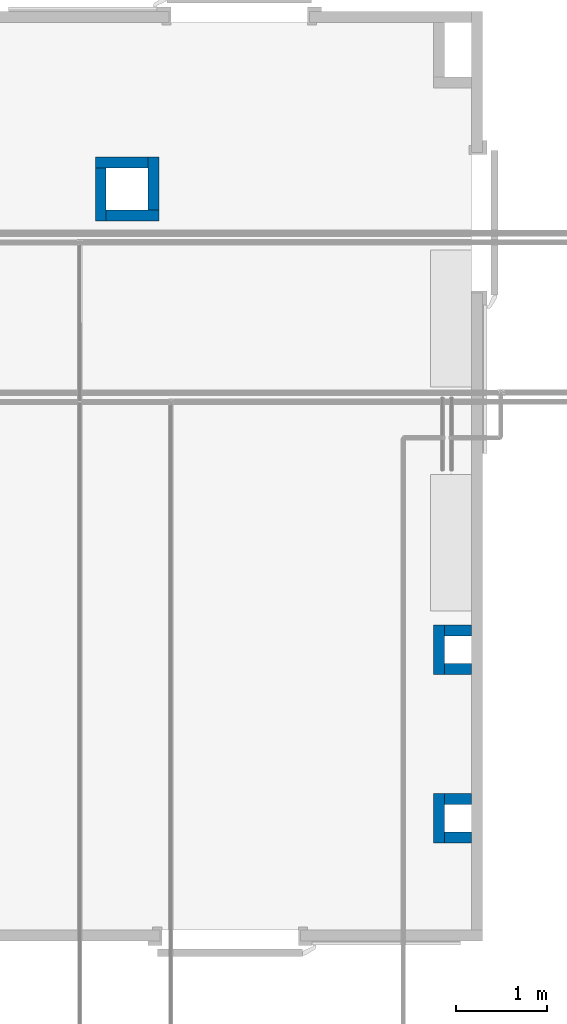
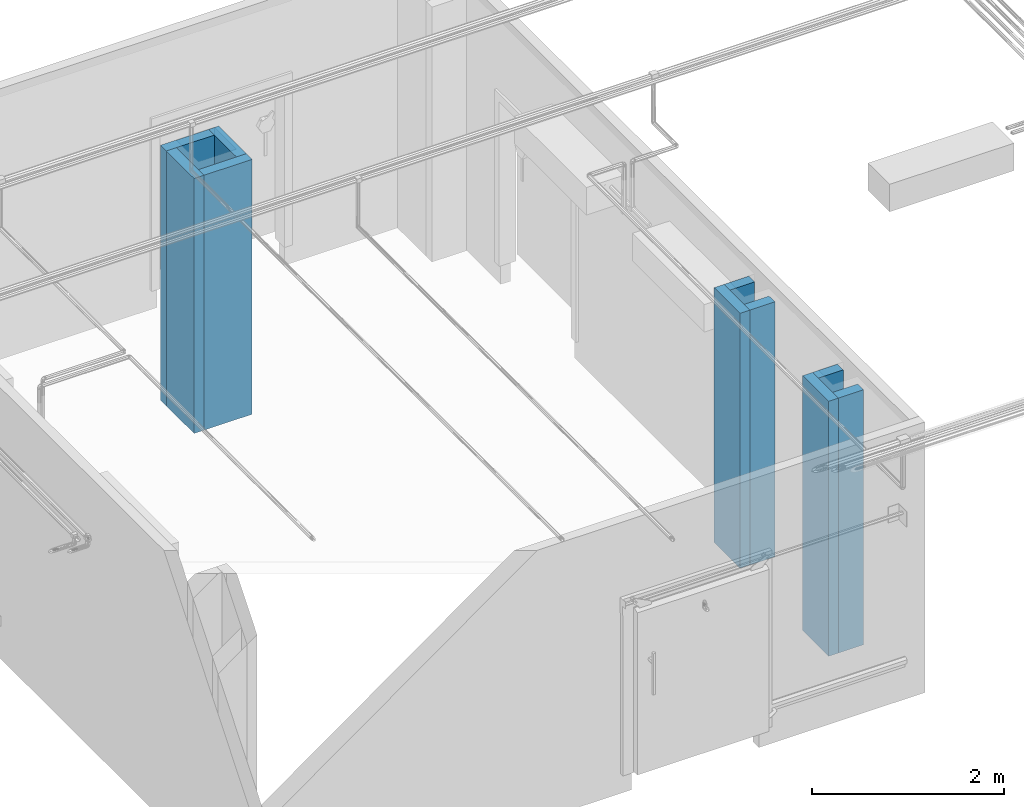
# One storey, part 31 of 652: 10 walls.
"""IFC2X3 building model written with IfcOpenShell, lengths in millimetres."""

from ifc_helpers import new_model, entity, si_unit, converted_unit, direction, frame, frame_2d, origin, place, context, subcontext, project, spatial, rectangle, extrude, material, layer, layer_set, layer_usage, type_object, element, save


model = new_model("IFC2X3")

# Units and contexts
model_context = context("Model", 3, precision=0.01, world=frame((0.0, 0.0, 308426.39999999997)), true_north=direction((6.123233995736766e-17, 1.0)))
plan_context = context("Plan", 3, precision=0.01, world=frame((0.0, 0.0, 308426.39999999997)), true_north=direction((6.123233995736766e-17, 1.0)))
body_context = subcontext(model_context, "Body", "Model", "MODEL_VIEW")
ifc_project = project(units=[si_unit("LENGTHUNIT", "METRE", prefix="MILLI"), si_unit("AREAUNIT", "SQUARE_METRE"), si_unit("VOLUMEUNIT", "CUBIC_METRE"), converted_unit("PLANEANGLEUNIT", "DEGREE", entity("IfcPlaneAngleMeasure", 0.017453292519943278), si_unit("PLANEANGLEUNIT", "RADIAN"), dimensions=[0, 0, 0, 0, 0, 0, 0])], contexts=[model_context, plan_context])

# Site, building, storey
site_placement = place(None, origin())
site = spatial("IfcSite", under=ifc_project, at=site_placement, Name="Default", CompositionType="ELEMENT")
building_placement = place(site_placement, origin())
building = spatial("IfcBuilding", under=site, at=building_placement, CompositionType="ELEMENT")
storey_placement = place(building_placement, frame((0.0, 0.0, 1730.6999999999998)))
storey = spatial("IfcBuildingStorey", under=building, at=storey_placement, Name="EG_Produktion_FFB", CompositionType="ELEMENT", Elevation=1730.6999999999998)

# Walls
ifc_material = material(Name="GPG_Paneelwand")
ifc_layer = layer(ifc_material, 120.0)
ifc_layer_set = layer_set([ifc_layer], Name="Basiswand:Kühlzellen Paneelwand 120")
ifc_layer_usage_1 = layer_usage(ifc_layer_set, "AXIS2", "NEGATIVE", 60.0)
wall_type = type_object("IfcWallType", Name="Basiswand:Kühlzellen Paneelwand 120", PredefinedType="STANDARD", material=ifc_layer_set)
wall_1_placement = place(storey_placement, frame((47150.0, 70690.0, -250.0)))
element("IfcWallStandardCase", 1, at=wall_1_placement, inside=storey, type_object=wall_type, material=ifc_layer_usage_1, Name="Basiswand:Kühlzellen Paneelwand 120", ObjectType="Basiswand:Kühlzellen Paneelwand 120", context=body_context, shape_type="SweptSolid", body=[
    extrude(rectangle(XDim=580.0000000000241, YDim=120.00000000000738, at=frame_2d((290.00000000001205, 0.0), x_axis=(-1.0, 0.0))), origin(), (0.0, 0.0, 1.0), 3249.9999999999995),
])
ifc_layer_usage_2 = layer_usage(ifc_layer_set, "AXIS2", "NEGATIVE", 60.0)
wall_2_placement = place(storey_placement, frame((47210.0, 70050.0, -250.0), z_axis=(0.0, 0.0, 1.0), x_axis=(0.0, 1.0, 0.0)))
element("IfcWallStandardCase", 2, at=wall_2_placement, inside=storey, type_object=wall_type, material=ifc_layer_usage_2, Name="Basiswand:Kühlzellen Paneelwand 120", ObjectType="Basiswand:Kühlzellen Paneelwand 120", context=body_context, shape_type="SweptSolid", body=[
    extrude(rectangle(XDim=579.9999999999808, YDim=120.00000000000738, at=frame_2d((289.9999999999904, 0.0), x_axis=(-1.0, 0.0))), origin(), (0.0, 0.0, 1.0), 3249.9999999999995),
])
ifc_layer_usage_3 = layer_usage(ifc_layer_set, "AXIS2", "NEGATIVE", 60.0)
wall_3_placement = place(storey_placement, frame((47850.0, 70110.0, -250.0), z_axis=(0.0, 0.0, 1.0), x_axis=(-1.0, 0.0, 0.0)))
element("IfcWallStandardCase", 3, at=wall_3_placement, inside=storey, type_object=wall_type, material=ifc_layer_usage_3, Name="Basiswand:Kühlzellen Paneelwand 120", ObjectType="Basiswand:Kühlzellen Paneelwand 120", context=body_context, shape_type="SweptSolid", body=[
    extrude(rectangle(XDim=580.0000000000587, YDim=120.00000000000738, at=frame_2d((290.00000000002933, -5.790923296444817e-13), x_axis=(-1.0, 0.0))), origin(), (0.0, 0.0, 1.0), 3249.9999999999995),
])
ifc_layer_usage_4 = layer_usage(ifc_layer_set, "AXIS2", "NEGATIVE", 60.0)
wall_4_placement = place(storey_placement, frame((47790.0, 70750.0, -250.0), z_axis=(0.0, 0.0, 1.0), x_axis=(0.0, -1.0, 0.0)))
element("IfcWallStandardCase", 4, at=wall_4_placement, inside=storey, type_object=wall_type, material=ifc_layer_usage_4, Name="Basiswand:Kühlzellen Paneelwand 120", ObjectType="Basiswand:Kühlzellen Paneelwand 120", context=body_context, shape_type="SweptSolid", body=[
    extrude(rectangle(XDim=580.0000000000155, YDim=120.00000000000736, at=frame_2d((290.00000000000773, -1.2079226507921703e-12), x_axis=(-1.0, 0.0))), origin(), (0.0, 0.0, 1.0), 3249.9999999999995),
])
ifc_layer_usage_5 = layer_usage(ifc_layer_set, "AXIS2", "NEGATIVE", 60.0)
wall_5_placement = place(storey_placement, frame((50920.0, 63225.0, -250.0), z_axis=(0.0, 0.0, 1.0), x_axis=(0.0, 1.0, 0.0)))
element("IfcWallStandardCase", 5, at=wall_5_placement, inside=storey, type_object=wall_type, material=ifc_layer_usage_5, Name="Basiswand:Kühlzellen Paneelwand 120", ObjectType="Basiswand:Kühlzellen Paneelwand 120", context=body_context, shape_type="SweptSolid", body=[
    extrude(rectangle(XDim=540.0000000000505, YDim=120.00000000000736, at=frame_2d((270.00000000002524, 7.105427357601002e-14), x_axis=(-1.0, 0.0))), origin(), (0.0, 0.0, 1.0), 3249.9999999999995),
])
ifc_layer_usage_6 = layer_usage(ifc_layer_set, "AXIS2", "POSITIVE", -60.0)
wall_6_placement = place(storey_placement, frame((50980.0, 63285.0, -250.0)))
element("IfcWallStandardCase", 6, at=wall_6_placement, inside=storey, type_object=wall_type, material=ifc_layer_usage_6, Name="Basiswand:Kühlzellen Paneelwand 120", ObjectType="Basiswand:Kühlzellen Paneelwand 120", context=body_context, shape_type="SweptSolid", body=[
    extrude(rectangle(XDim=299.99999999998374, YDim=120.00000000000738, at=frame_2d((149.99999999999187, 0.0), x_axis=(-1.0, 0.0))), origin(), (0.0, 0.0, 1.0), 3249.9999999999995),
])
ifc_layer_usage_7 = layer_usage(ifc_layer_set, "AXIS2", "NEGATIVE", 60.0)
wall_7_placement = place(storey_placement, frame((50980.0, 63705.0, -250.0)))
element("IfcWallStandardCase", 7, at=wall_7_placement, inside=storey, type_object=wall_type, material=ifc_layer_usage_7, Name="Basiswand:Kühlzellen Paneelwand 120", ObjectType="Basiswand:Kühlzellen Paneelwand 120", context=body_context, shape_type="SweptSolid", body=[
    extrude(rectangle(XDim=300.00000000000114, YDim=120.00000000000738, at=frame_2d((150.00000000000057, 0.0), x_axis=(-1.0, 0.0))), origin(), (0.0, 0.0, 1.0), 3249.9999999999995),
])
ifc_layer_usage_8 = layer_usage(ifc_layer_set, "AXIS2", "NEGATIVE", 60.0)
wall_8_placement = place(storey_placement, frame((50920.0, 65075.0, -250.0), z_axis=(0.0, 0.0, 1.0), x_axis=(0.0, 1.0, 0.0)))
element("IfcWallStandardCase", 8, at=wall_8_placement, inside=storey, type_object=wall_type, material=ifc_layer_usage_8, Name="Basiswand:Kühlzellen Paneelwand 120", ObjectType="Basiswand:Kühlzellen Paneelwand 120", context=body_context, shape_type="SweptSolid", body=[
    extrude(rectangle(XDim=540.0000000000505, YDim=120.00000000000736, at=frame_2d((270.00000000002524, 7.105427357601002e-14), x_axis=(-1.0, 0.0))), origin(), (0.0, 0.0, 1.0), 3249.9999999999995),
])
ifc_layer_usage_9 = layer_usage(ifc_layer_set, "AXIS2", "POSITIVE", -60.0)
wall_9_placement = place(storey_placement, frame((50980.0, 65135.0, -250.0)))
element("IfcWallStandardCase", 9, at=wall_9_placement, inside=storey, type_object=wall_type, material=ifc_layer_usage_9, Name="Basiswand:Kühlzellen Paneelwand 120", ObjectType="Basiswand:Kühlzellen Paneelwand 120", context=body_context, shape_type="SweptSolid", body=[
    extrude(rectangle(XDim=299.9999999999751, YDim=120.00000000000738, at=frame_2d((149.99999999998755, 0.0), x_axis=(-1.0, 0.0))), origin(), (0.0, 0.0, 1.0), 3249.9999999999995),
])
ifc_layer_usage_10 = layer_usage(ifc_layer_set, "AXIS2", "NEGATIVE", 60.0)
wall_10_placement = place(storey_placement, frame((50980.0, 65555.0, -250.0)))
element("IfcWallStandardCase", 10, at=wall_10_placement, inside=storey, type_object=wall_type, material=ifc_layer_usage_10, Name="Basiswand:Kühlzellen Paneelwand 120", ObjectType="Basiswand:Kühlzellen Paneelwand 120", context=body_context, shape_type="SweptSolid", body=[
    extrude(rectangle(XDim=300.00000000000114, YDim=120.00000000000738, at=frame_2d((150.00000000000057, 0.0), x_axis=(-1.0, 0.0))), origin(), (0.0, 0.0, 1.0), 3249.9999999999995),
])

save(model, "model.ifc")
